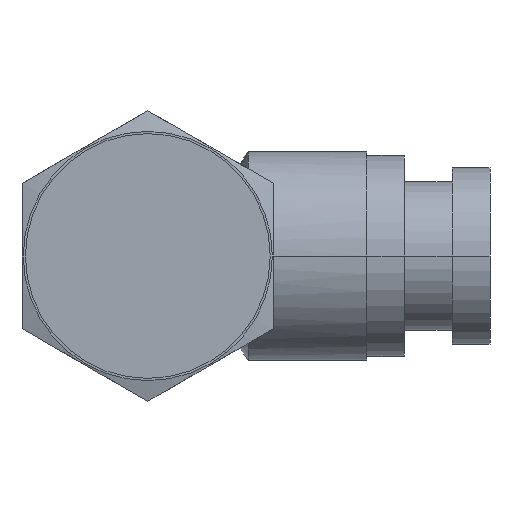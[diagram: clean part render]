
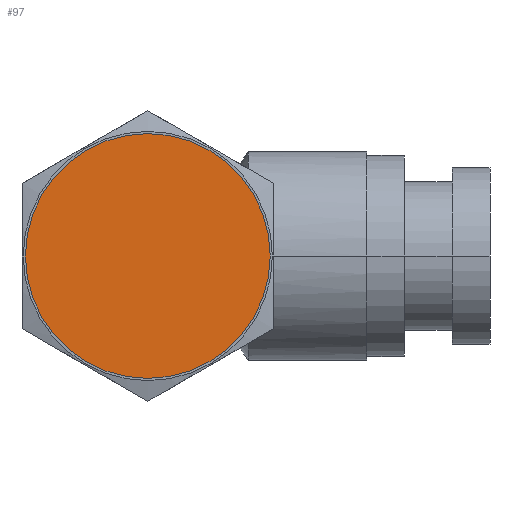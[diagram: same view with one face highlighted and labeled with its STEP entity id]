
A CAD part, front view. The second image highlights one B-rep face of the part: STEP entity #97.
In plain terms, the highlighted planar face has unit normal (0, -1, 0).
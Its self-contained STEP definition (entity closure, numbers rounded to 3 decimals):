
#97 = ADVANCED_FACE( '', ( #172 ), #173, .T. );
#172 = FACE_OUTER_BOUND( '', #283, .T. );
#173 = PLANE( '', #284 );
#283 = EDGE_LOOP( '', ( #524, #525 ) );
#284 = AXIS2_PLACEMENT_3D( '', #526, #527, #528 );
#524 = ORIENTED_EDGE( '', *, *, #794, .F. );
#525 = ORIENTED_EDGE( '', *, *, #836, .F. );
#526 = CARTESIAN_POINT( '', ( 2.432, -3.15, 0. ) );
#527 = DIRECTION( '', ( 0., -1., 0. ) );
#528 = DIRECTION( '', ( -1., 0., 0. ) );
#794 = EDGE_CURVE( '', #956, #959, #960, .T. );
#836 = EDGE_CURVE( '', #959, #956, #1028, .T. );
#956 = VERTEX_POINT( '', #1260 );
#959 = VERTEX_POINT( '', #1264 );
#960 = CIRCLE( '', #1265, 4.864 );
#1028 = CIRCLE( '', #1480, 4.864 );
#1260 = CARTESIAN_POINT( '', ( 4.864, -3.15, 0. ) );
#1264 = CARTESIAN_POINT( '', ( -4.864, -3.15, 0. ) );
#1265 = AXIS2_PLACEMENT_3D( '', #1635, #1636, #1637 );
#1480 = AXIS2_PLACEMENT_3D( '', #1686, #1687, #1688 );
#1635 = CARTESIAN_POINT( '', ( 0., -3.15, 0. ) );
#1636 = DIRECTION( '', ( 0., 1., 0. ) );
#1637 = DIRECTION( '', ( 1., 0., 0. ) );
#1686 = CARTESIAN_POINT( '', ( 0., -3.15, 0. ) );
#1687 = DIRECTION( '', ( 0., 1., 0. ) );
#1688 = DIRECTION( '', ( 1., 0., 0. ) );
